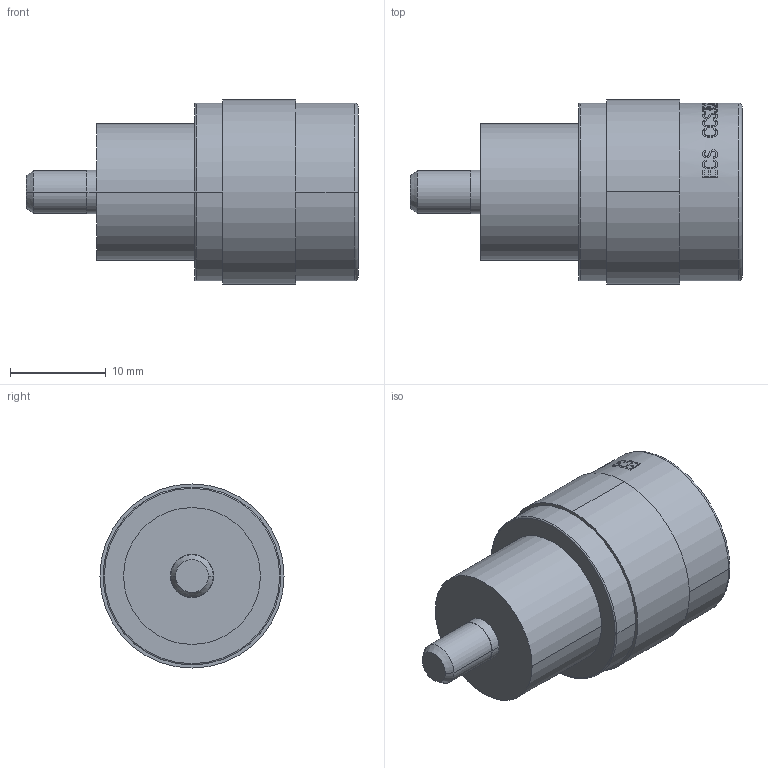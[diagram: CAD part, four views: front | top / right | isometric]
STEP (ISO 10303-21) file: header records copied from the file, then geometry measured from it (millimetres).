
FILE_DESCRIPTION((''),'2;1');
FILE_NAME('CCS3522_2','2019-12-06T14:17:48',('Anthony.Gnas'),('Carlisle Interconnect Technologies'),'CREO PARAMETRIC BY PTC INC, 2017260','CREO PARAMETRIC BY PTC INC, 2017260','');
FILE_SCHEMA(('AUTOMOTIVE_DESIGN { 1 0 10303 214 1 1 1 1 }'));
Length unit declared in the file: inch
Products named in the file (1): CCS3522_2
Bounding box: 34.62 x 19.2 x 19.2 mm (x, y, z)
Volume: 5371.5 mm3; surface area: 3690.2 mm2
Topology: 1 solids, 1 shells, 508 faces, 1439 edges, 958 vertices
Faces by surface type: bspline 262, plane 182, cylinder 48, cone 8, torus 6, extrusion 2
Entity records: 25106 total; most frequent: CARTESIAN_POINT 9938, ORIENTED_EDGE 2878, DIRECTION 1675, EDGE_CURVE 1439, VERTEX_POINT 958, B_SPLINE_CURVE_WITH_KNOTS 570, VECTOR 559, AXIS2_PLACEMENT_3D 558
